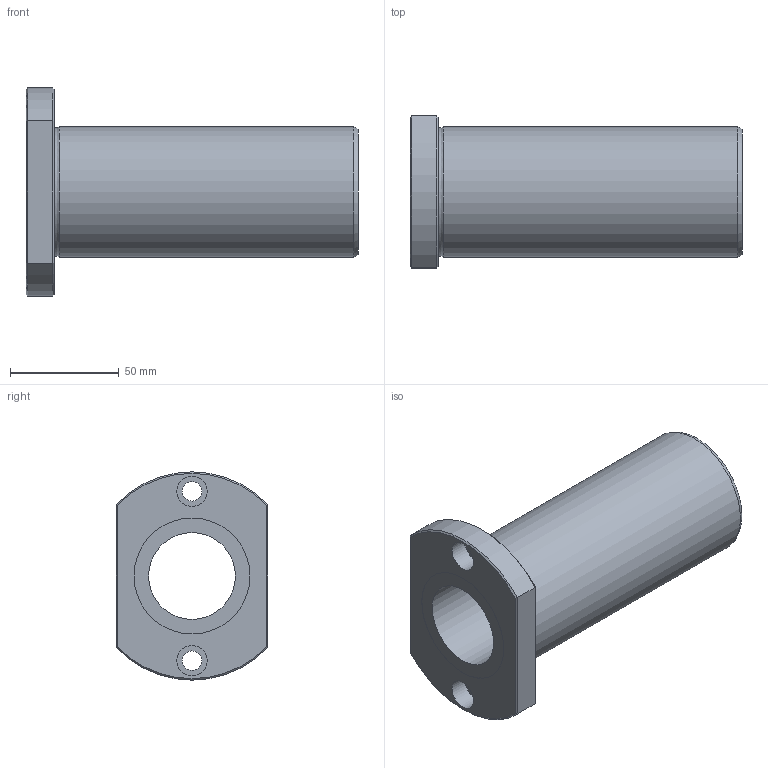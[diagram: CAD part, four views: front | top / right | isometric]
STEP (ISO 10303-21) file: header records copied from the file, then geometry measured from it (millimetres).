
FILE_DESCRIPTION((''),'2;1');
FILE_NAME('D:\製品 (図面)\カタログ用3D\リニアベアリング関連\STEP形式\LFDT\LFDT40.stp','2010-06-03T09:48:20',('Tsuchiya'),(''),'Autodesk Inventor 10','Autodesk Inventor 10','');
FILE_SCHEMA(('AUTOMOTIVE_DESIGN { 1 0 10303 214 1 1 1 1 }'));
Length unit declared in the file: millimetre
Products named in the file (1): LFDT40
Bounding box: 153 x 70 x 96 mm (x, y, z)
Volume: 278528.1 mm3; surface area: 59440.9 mm2
Topology: 1 solids, 1 shells, 29 faces, 56 edges, 34 vertices
Faces by surface type: plane 13, cylinder 10, cone 4, torus 1, bspline 1
Full cylindrical faces by diameter (mm): 9 x2, 14 x2, 40 x1, 53.4 x2, 60 x1
Entity records: 787 total; most frequent: CARTESIAN_POINT 196, DIRECTION 122, ORIENTED_EDGE 92, AXIS2_PLACEMENT_3D 55, EDGE_LOOP 50, EDGE_CURVE 46, VERTEX_POINT 34, FACE_OUTER_BOUND 29
